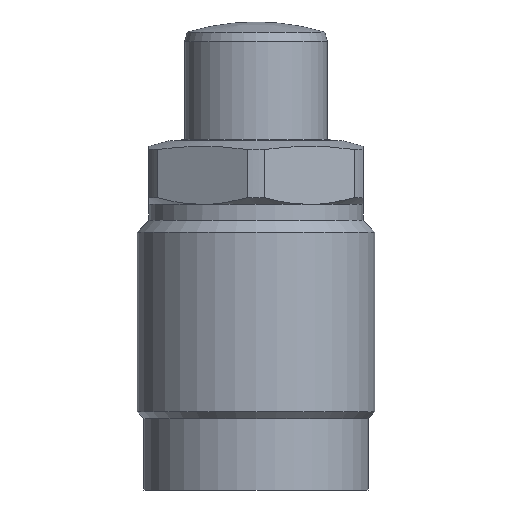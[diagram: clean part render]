
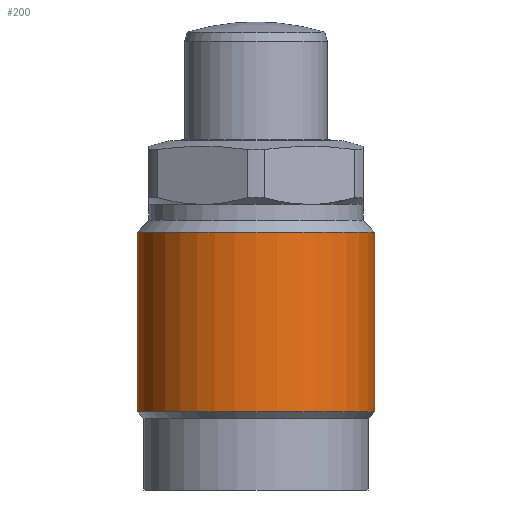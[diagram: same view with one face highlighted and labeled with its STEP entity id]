
A CAD part, front view. The second image highlights one B-rep face of the part: STEP entity #200.
In plain terms, the highlighted cylindrical face has radius 15 mm (diameter 30 mm), a partial arc.
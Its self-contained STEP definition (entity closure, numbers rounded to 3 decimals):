
#15 = EDGE_CURVE ( 'NONE', #654, #777, #2157, .T. ) ;
#16 = EDGE_CURVE ( 'NONE', #652, #651, #2159, .T. ) ;
#83 = EDGE_CURVE ( 'NONE', #654, #652, #1316, .T. ) ;
#84 = EDGE_CURVE ( 'NONE', #777, #651, #1321, .T. ) ;
#200 = ADVANCED_FACE ( 'NONE', ( #256 ), #259, .T. ) ;
#253 = DIRECTION ( 'NONE',  ( 0., 0., 1. ) ) ;
#256 = FACE_OUTER_BOUND ( 'NONE', #726, .T. ) ;
#257 = CARTESIAN_POINT ( 'NONE',  ( 0., 0., -1.097 ) ) ;
#259 = CYLINDRICAL_SURFACE ( 'NONE', #1428, 15. ) ;
#260 = DIRECTION ( 'NONE',  ( 1., 0., 0. ) ) ;
#480 = CARTESIAN_POINT ( 'NONE',  ( -15., 0., -11.5 ) ) ;
#508 = CARTESIAN_POINT ( 'NONE',  ( 15., 0., -11.5 ) ) ;
#510 = CARTESIAN_POINT ( 'NONE',  ( -15., 0., -34.15 ) ) ;
#651 = VERTEX_POINT ( 'NONE', #508 ) ;
#652 = VERTEX_POINT ( 'NONE', #480 ) ;
#654 = VERTEX_POINT ( 'NONE', #510 ) ;
#726 = EDGE_LOOP ( 'NONE', ( #1614, #1613, #1612, #1611 ) ) ;
#777 = VERTEX_POINT ( 'NONE', #1718 ) ;
#830 = CARTESIAN_POINT ( 'NONE',  ( 0., 0., -34.15 ) ) ;
#831 = DIRECTION ( 'NONE',  ( 0., 0., 1. ) ) ;
#832 = DIRECTION ( 'NONE',  ( 1., 0., 0. ) ) ;
#833 = CARTESIAN_POINT ( 'NONE',  ( 0., 0., -11.5 ) ) ;
#834 = DIRECTION ( 'NONE',  ( 0., 0., 1. ) ) ;
#835 = DIRECTION ( 'NONE',  ( 1., 0., 0. ) ) ;
#1310 = CARTESIAN_POINT ( 'NONE',  ( -15., 0., -1.097 ) ) ;
#1316 = LINE ( 'NONE', #1310, #1334 ) ;
#1320 = DIRECTION ( 'NONE',  ( 0., 0., 1. ) ) ;
#1321 = LINE ( 'NONE', #1322, #1342 ) ;
#1322 = CARTESIAN_POINT ( 'NONE',  ( 15., 0., -1.097 ) ) ;
#1323 = DIRECTION ( 'NONE',  ( 0., 0., 1. ) ) ;
#1334 = VECTOR ( 'NONE', #1320, 1000. ) ;
#1342 = VECTOR ( 'NONE', #1323, 1000. ) ;
#1428 = AXIS2_PLACEMENT_3D ( 'NONE', #257, #253, #260 ) ;
#1611 = ORIENTED_EDGE ( 'NONE', *, *, #16, .F. ) ;
#1612 = ORIENTED_EDGE ( 'NONE', *, *, #84, .T. ) ;
#1613 = ORIENTED_EDGE ( 'NONE', *, *, #15, .T. ) ;
#1614 = ORIENTED_EDGE ( 'NONE', *, *, #83, .F. ) ;
#1718 = CARTESIAN_POINT ( 'NONE',  ( 15., 0., -34.15 ) ) ;
#2157 = CIRCLE ( 'NONE', #2162, 15. ) ;
#2159 = CIRCLE ( 'NONE', #2164, 15. ) ;
#2162 = AXIS2_PLACEMENT_3D ( 'NONE', #830, #831, #832 ) ;
#2164 = AXIS2_PLACEMENT_3D ( 'NONE', #833, #834, #835 ) ;
